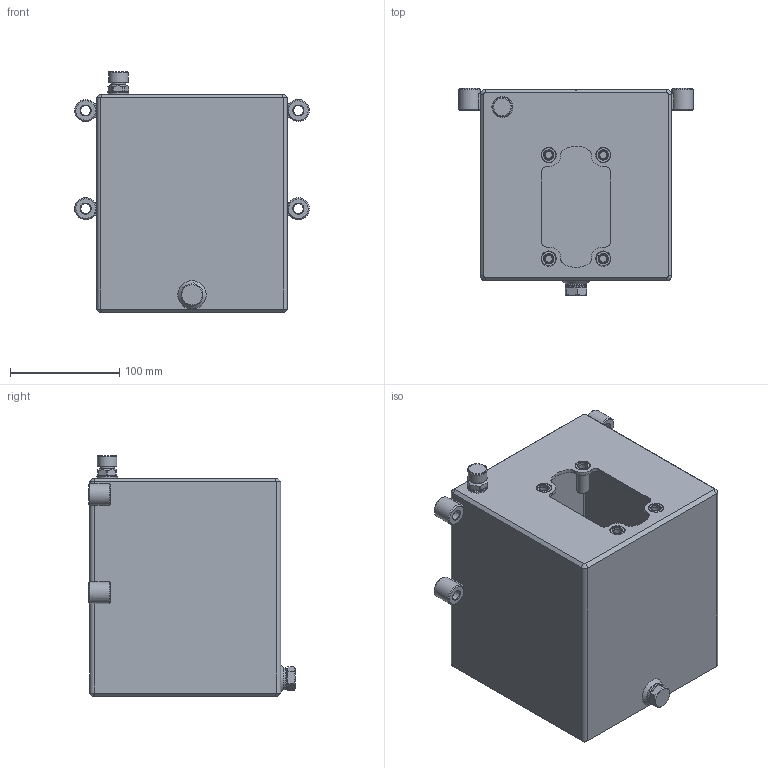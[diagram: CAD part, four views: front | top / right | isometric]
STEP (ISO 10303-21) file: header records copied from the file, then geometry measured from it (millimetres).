
FILE_DESCRIPTION(/* description */ ('Unknown'),/* implementation_level */ '2;1');
FILE_NAME(/* name */ 'SR05FE',/* time_stamp */ '2024-11-28T09:37:13+01:00',/* author */ ('Unknown'),/* organization */ ('Unknown'),/* preprocessor_version */ 'ST-DEVELOPER v19.4',/* originating_system */ 'Solid Edge',/* authorisation */ 'Unknown');
FILE_SCHEMA (('AUTOMOTIVE_DESIGN {1 0 10303 214 3 1 1}'));
Length unit declared in the file: millimetre
Products named in the file (1): SR05FE
Bounding box: 215 x 189.5 x 220.6 mm (x, y, z)
Volume: 590841.4 mm3; surface area: 394033.7 mm2
Topology: 2 solids, 2 shells, 259 faces, 605 edges, 374 vertices
Faces by surface type: plane 125, cylinder 67, cone 46, torus 19, bspline 2
Full cylindrical faces by diameter (mm): 5.8 x1, 6.647 x8, 9 x4, 9.15 x4, 10.5 x1, 10.88 x4, 10.9 x4, 13.157 x1, 13.2 x4, 13.5 x1, 15 x1, 16.8 x1, 17 x1, 18 x1, 19 x2, 20 x6, 20.1 x1
Entity records: 8353 total; most frequent: DIRECTION 1195, CARTESIAN_POINT 1164, ORIENTED_EDGE 924, AXIS2_PLACEMENT_3D 489, EDGE_CURVE 462, EDGE_LOOP 398, FACE_BOUND 398, VERTEX_POINT 332
